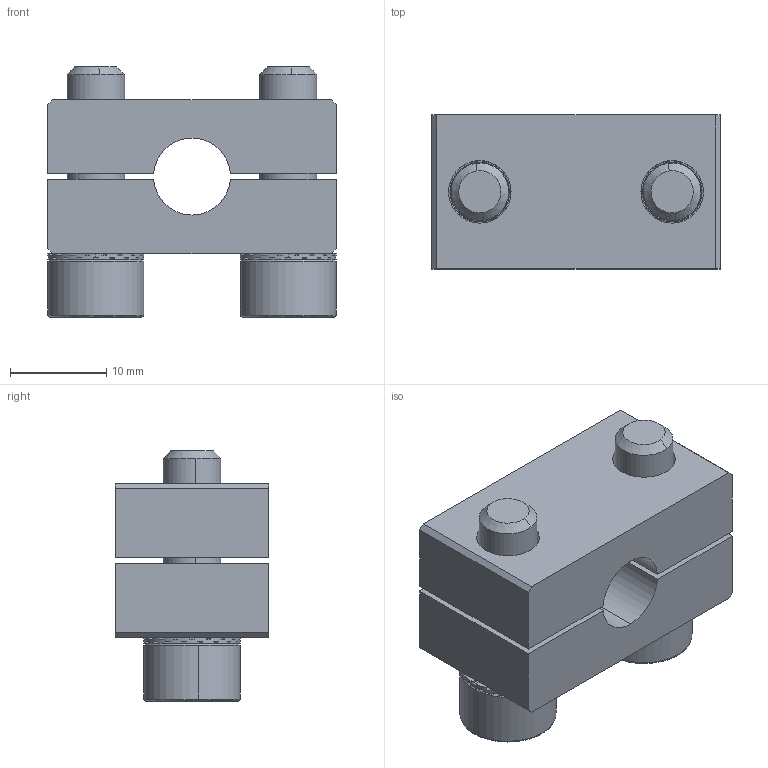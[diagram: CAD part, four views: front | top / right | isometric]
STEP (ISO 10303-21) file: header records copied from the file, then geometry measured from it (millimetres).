
FILE_DESCRIPTION (( 'STEP AP214' ), '1' );
FILE_NAME ('SMBS-8T16.STEP', '2019-11-07T01:41:24', ( '微软用户' ), ( '微软中国' ), 'SwSTEP 2.0', 'SolidWorks 2016', '' );
FILE_SCHEMA (( 'AUTOMOTIVE_DESIGN' ));
Length unit declared in the file: millimetre
Products named in the file (1): SMBS-8T16
Bounding box: 30 x 16 x 26 mm (x, y, z)
Volume: 7587.9 mm3; surface area: 5550.1 mm2
Topology: 6 solids, 6 shells, 365 faces, 1051 edges, 698 vertices
Faces by surface type: plane 326, cylinder 27, cone 8, bspline 4
Entity records: 16217 total; most frequent: CARTESIAN_POINT 2199, DIRECTION 2121, ORIENTED_EDGE 2102, EDGE_CURVE 1051, AXIS2_PLACEMENT_3D 716, VERTEX_POINT 698, LINE 689, VECTOR 689
